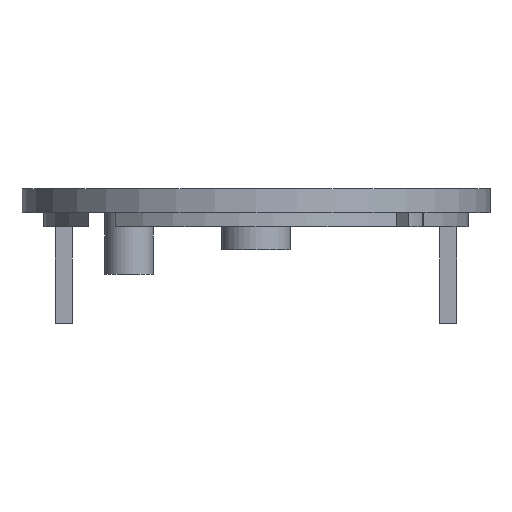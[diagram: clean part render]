
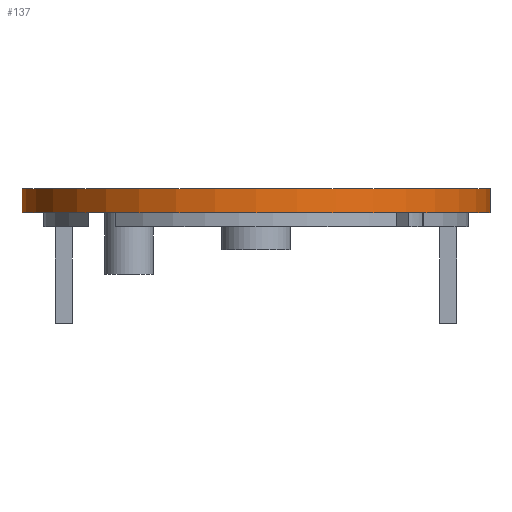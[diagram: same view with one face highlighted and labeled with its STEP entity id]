
A CAD part, left-side view. The second image highlights one B-rep face of the part: STEP entity #137.
In plain terms, the highlighted cylindrical face has radius 16.5 mm (diameter 33 mm), a partial arc.
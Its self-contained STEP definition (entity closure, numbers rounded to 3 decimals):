
#21 = EDGE_CURVE('',#22,#24,#26,.T.);
#22 = VERTEX_POINT('',#23);
#23 = CARTESIAN_POINT('',(-21.5,-16.5,17.3));
#24 = VERTEX_POINT('',#25);
#25 = CARTESIAN_POINT('',(-21.5,-16.5,19.));
#26 = SURFACE_CURVE('',#27,(#31,#43),.PCURVE_S1.);
#27 = LINE('',#28,#29);
#28 = CARTESIAN_POINT('',(-21.5,-16.5,17.3));
#29 = VECTOR('',#30,1.);
#30 = DIRECTION('',(0.,0.,1.));
#31 = PCURVE('',#32,#37);
#32 = PLANE('',#33);
#33 = AXIS2_PLACEMENT_3D('',#34,#35,#36);
#34 = CARTESIAN_POINT('',(-21.5,-16.5,17.3));
#35 = DIRECTION('',(0.,1.,0.));
#36 = DIRECTION('',(1.,0.,0.));
#37 = DEFINITIONAL_REPRESENTATION('',(#38),#42);
#38 = LINE('',#39,#40);
#39 = CARTESIAN_POINT('',(0.,0.));
#40 = VECTOR('',#41,1.);
#41 = DIRECTION('',(0.,-1.));
#42 = ( GEOMETRIC_REPRESENTATION_CONTEXT(2) 
PARAMETRIC_REPRESENTATION_CONTEXT() REPRESENTATION_CONTEXT('2D SPACE',''
  ) );
#43 = PCURVE('',#44,#49);
#44 = CYLINDRICAL_SURFACE('',#45,16.5);
#45 = AXIS2_PLACEMENT_3D('',#46,#47,#48);
#46 = CARTESIAN_POINT('',(-21.5,0.,17.3));
#47 = DIRECTION('',(-0.,-0.,-1.));
#48 = DIRECTION('',(1.,0.,0.));
#49 = DEFINITIONAL_REPRESENTATION('',(#50),#54);
#50 = LINE('',#51,#52);
#51 = CARTESIAN_POINT('',(-4.712,0.));
#52 = VECTOR('',#53,1.);
#53 = DIRECTION('',(-0.,-1.));
#54 = ( GEOMETRIC_REPRESENTATION_CONTEXT(2) 
PARAMETRIC_REPRESENTATION_CONTEXT() REPRESENTATION_CONTEXT('2D SPACE',''
  ) );
#72 = PLANE('',#73);
#73 = AXIS2_PLACEMENT_3D('',#74,#75,#76);
#74 = CARTESIAN_POINT('',(0.,0.,19.));
#75 = DIRECTION('',(0.,0.,1.));
#76 = DIRECTION('',(1.,0.,-0.));
#126 = PLANE('',#127);
#127 = AXIS2_PLACEMENT_3D('',#128,#129,#130);
#128 = CARTESIAN_POINT('',(0.,0.,17.3));
#129 = DIRECTION('',(0.,0.,1.));
#130 = DIRECTION('',(1.,0.,-0.));
#137 = ADVANCED_FACE('',(#138),#44,.T.);
#138 = FACE_BOUND('',#139,.F.);
#139 = EDGE_LOOP('',(#140,#164,#192,#214));
#140 = ORIENTED_EDGE('',*,*,#141,.F.);
#141 = EDGE_CURVE('',#142,#22,#144,.T.);
#142 = VERTEX_POINT('',#143);
#143 = CARTESIAN_POINT('',(-21.5,16.5,17.3));
#144 = SURFACE_CURVE('',#145,(#150,#157),.PCURVE_S1.);
#145 = CIRCLE('',#146,16.5);
#146 = AXIS2_PLACEMENT_3D('',#147,#148,#149);
#147 = CARTESIAN_POINT('',(-21.5,0.,17.3));
#148 = DIRECTION('',(0.,0.,1.));
#149 = DIRECTION('',(1.,0.,0.));
#150 = PCURVE('',#44,#151);
#151 = DEFINITIONAL_REPRESENTATION('',(#152),#156);
#152 = LINE('',#153,#154);
#153 = CARTESIAN_POINT('',(-0.,0.));
#154 = VECTOR('',#155,1.);
#155 = DIRECTION('',(-1.,0.));
#156 = ( GEOMETRIC_REPRESENTATION_CONTEXT(2) 
PARAMETRIC_REPRESENTATION_CONTEXT() REPRESENTATION_CONTEXT('2D SPACE',''
  ) );
#157 = PCURVE('',#126,#158);
#158 = DEFINITIONAL_REPRESENTATION('',(#159),#163);
#159 = CIRCLE('',#160,16.5);
#160 = AXIS2_PLACEMENT_2D('',#161,#162);
#161 = CARTESIAN_POINT('',(-21.5,0.));
#162 = DIRECTION('',(1.,0.));
#163 = ( GEOMETRIC_REPRESENTATION_CONTEXT(2) 
PARAMETRIC_REPRESENTATION_CONTEXT() REPRESENTATION_CONTEXT('2D SPACE',''
  ) );
#164 = ORIENTED_EDGE('',*,*,#165,.T.);
#165 = EDGE_CURVE('',#142,#166,#168,.T.);
#166 = VERTEX_POINT('',#167);
#167 = CARTESIAN_POINT('',(-21.5,16.5,19.));
#168 = SURFACE_CURVE('',#169,(#173,#180),.PCURVE_S1.);
#169 = LINE('',#170,#171);
#170 = CARTESIAN_POINT('',(-21.5,16.5,17.3));
#171 = VECTOR('',#172,1.);
#172 = DIRECTION('',(0.,0.,1.));
#173 = PCURVE('',#44,#174);
#174 = DEFINITIONAL_REPRESENTATION('',(#175),#179);
#175 = LINE('',#176,#177);
#176 = CARTESIAN_POINT('',(-1.571,0.));
#177 = VECTOR('',#178,1.);
#178 = DIRECTION('',(-0.,-1.));
#179 = ( GEOMETRIC_REPRESENTATION_CONTEXT(2) 
PARAMETRIC_REPRESENTATION_CONTEXT() REPRESENTATION_CONTEXT('2D SPACE',''
  ) );
#180 = PCURVE('',#181,#186);
#181 = PLANE('',#182);
#182 = AXIS2_PLACEMENT_3D('',#183,#184,#185);
#183 = CARTESIAN_POINT('',(21.5,16.5,17.3));
#184 = DIRECTION('',(0.,-1.,0.));
#185 = DIRECTION('',(-1.,0.,0.));
#186 = DEFINITIONAL_REPRESENTATION('',(#187),#191);
#187 = LINE('',#188,#189);
#188 = CARTESIAN_POINT('',(43.,0.));
#189 = VECTOR('',#190,1.);
#190 = DIRECTION('',(0.,-1.));
#191 = ( GEOMETRIC_REPRESENTATION_CONTEXT(2) 
PARAMETRIC_REPRESENTATION_CONTEXT() REPRESENTATION_CONTEXT('2D SPACE',''
  ) );
#192 = ORIENTED_EDGE('',*,*,#193,.T.);
#193 = EDGE_CURVE('',#166,#24,#194,.T.);
#194 = SURFACE_CURVE('',#195,(#200,#207),.PCURVE_S1.);
#195 = CIRCLE('',#196,16.5);
#196 = AXIS2_PLACEMENT_3D('',#197,#198,#199);
#197 = CARTESIAN_POINT('',(-21.5,0.,19.));
#198 = DIRECTION('',(0.,0.,1.));
#199 = DIRECTION('',(1.,0.,0.));
#200 = PCURVE('',#44,#201);
#201 = DEFINITIONAL_REPRESENTATION('',(#202),#206);
#202 = LINE('',#203,#204);
#203 = CARTESIAN_POINT('',(-0.,-1.7));
#204 = VECTOR('',#205,1.);
#205 = DIRECTION('',(-1.,0.));
#206 = ( GEOMETRIC_REPRESENTATION_CONTEXT(2) 
PARAMETRIC_REPRESENTATION_CONTEXT() REPRESENTATION_CONTEXT('2D SPACE',''
  ) );
#207 = PCURVE('',#72,#208);
#208 = DEFINITIONAL_REPRESENTATION('',(#209),#213);
#209 = CIRCLE('',#210,16.5);
#210 = AXIS2_PLACEMENT_2D('',#211,#212);
#211 = CARTESIAN_POINT('',(-21.5,0.));
#212 = DIRECTION('',(1.,0.));
#213 = ( GEOMETRIC_REPRESENTATION_CONTEXT(2) 
PARAMETRIC_REPRESENTATION_CONTEXT() REPRESENTATION_CONTEXT('2D SPACE',''
  ) );
#214 = ORIENTED_EDGE('',*,*,#21,.F.);
